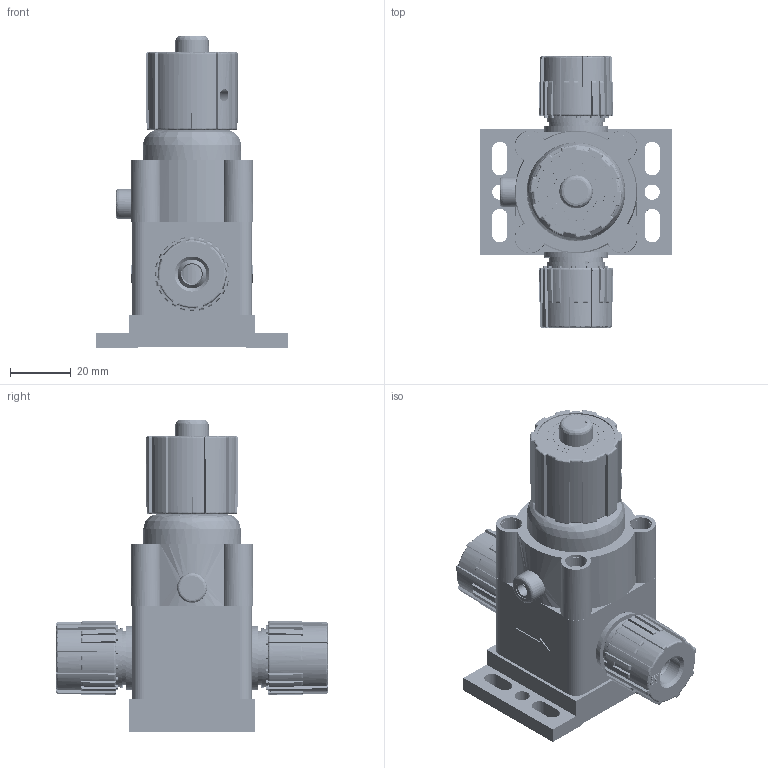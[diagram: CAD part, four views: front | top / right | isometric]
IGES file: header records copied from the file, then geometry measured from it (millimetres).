
Bounding box: 63 x 89.5 x 102.45 mm (x, y, z)
Surface area: 78852.3 mm2 (no closed solid volume)
Topology: 0 solids, 0 shells, 1985 faces, 12462 edges, 12386 vertices
Faces by surface type: bspline 1985
